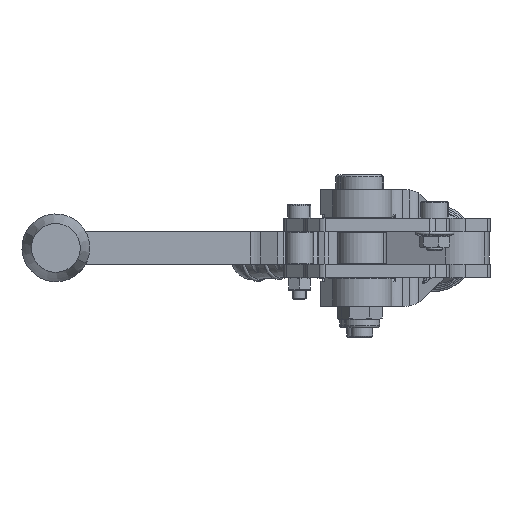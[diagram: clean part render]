
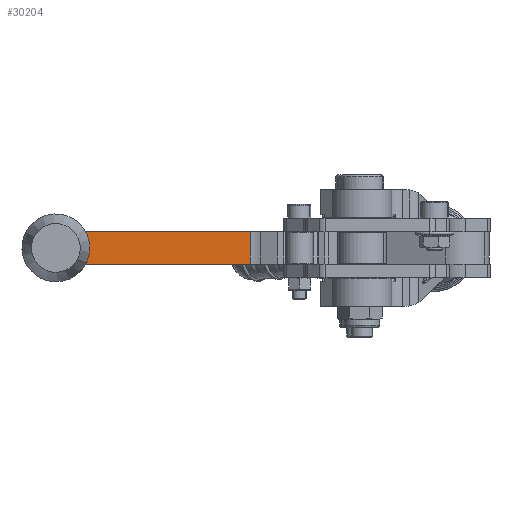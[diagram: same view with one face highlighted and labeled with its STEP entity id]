
A CAD part, front view. The second image highlights one B-rep face of the part: STEP entity #30204.
In plain terms, the highlighted planar face has unit normal (-0.002, -1, 0) as drawn and (0.552, -0.834, 0) by its records, which use the part's own axes.
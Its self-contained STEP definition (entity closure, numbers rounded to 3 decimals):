
#675 = LINE ( 'NONE', #56545, #54564 ) ;
#2123 = EDGE_CURVE ( 'NONE', #37736, #35843, #42954, .T. ) ;
#2767 = CARTESIAN_POINT ( 'NONE',  ( -117.524, -75.13, 0. ) ) ;
#3889 = VERTEX_POINT ( 'NONE', #17771 ) ;
#9453 = CARTESIAN_POINT ( 'NONE',  ( -65.316, -40.573, 0. ) ) ;
#9599 = EDGE_LOOP ( 'NONE', ( #58395, #64239, #15592, #28588 ) ) ;
#10896 = PLANE ( 'NONE',  #65388 ) ;
#15588 = FACE_OUTER_BOUND ( 'NONE', #9599, .T. ) ;
#15592 = ORIENTED_EDGE ( 'NONE', *, *, #2123, .F. ) ;
#17771 = CARTESIAN_POINT ( 'NONE',  ( -117.524, -75.13, -12. ) ) ;
#17970 = VERTEX_POINT ( 'NONE', #31631 ) ;
#20138 = VECTOR ( 'NONE', #38954, 1000. ) ;
#22501 = DIRECTION ( 'NONE',  ( 0.834, 0.552, 0. ) ) ;
#23530 = LINE ( 'NONE', #27525, #20138 ) ;
#24947 = VECTOR ( 'NONE', #51666, 1000. ) ;
#27525 = CARTESIAN_POINT ( 'NONE',  ( -117.524, -75.13, -12. ) ) ;
#28588 = ORIENTED_EDGE ( 'NONE', *, *, #52382, .F. ) ;
#30204 = ADVANCED_FACE ( 'NONE', ( #15588 ), #10896, .T. ) ;
#30643 = DIRECTION ( 'NONE',  ( 0.552, -0.834, 0. ) ) ;
#30970 = CARTESIAN_POINT ( 'NONE',  ( -117.524, -75.13, -12. ) ) ;
#31270 = CARTESIAN_POINT ( 'NONE',  ( -65.316, -40.573, 0. ) ) ;
#31631 = CARTESIAN_POINT ( 'NONE',  ( -65.316, -40.573, -12. ) ) ;
#35843 = VERTEX_POINT ( 'NONE', #9453 ) ;
#37736 = VERTEX_POINT ( 'NONE', #44910 ) ;
#38954 = DIRECTION ( 'NONE',  ( 0.834, 0.552, 0. ) ) ;
#39970 = EDGE_CURVE ( 'NONE', #17970, #35843, #42003, .T. ) ;
#42003 = LINE ( 'NONE', #31270, #24947 ) ;
#42954 = LINE ( 'NONE', #2767, #45888 ) ;
#44910 = CARTESIAN_POINT ( 'NONE',  ( -117.524, -75.13, 0. ) ) ;
#45888 = VECTOR ( 'NONE', #22501, 1000. ) ;
#49906 = EDGE_CURVE ( 'NONE', #3889, #17970, #23530, .T. ) ;
#51025 = DIRECTION ( 'NONE',  ( 0.834, 0.552, 0. ) ) ;
#51666 = DIRECTION ( 'NONE',  ( 0., 0., 1. ) ) ;
#52382 = EDGE_CURVE ( 'NONE', #3889, #37736, #675, .T. ) ;
#54564 = VECTOR ( 'NONE', #60921, 1000. ) ;
#56545 = CARTESIAN_POINT ( 'NONE',  ( -117.524, -75.13, -12. ) ) ;
#58395 = ORIENTED_EDGE ( 'NONE', *, *, #49906, .T. ) ;
#60921 = DIRECTION ( 'NONE',  ( 0., 0., 1. ) ) ;
#64239 = ORIENTED_EDGE ( 'NONE', *, *, #39970, .T. ) ;
#65388 = AXIS2_PLACEMENT_3D ( 'NONE', #30970, #30643, #51025 ) ;
